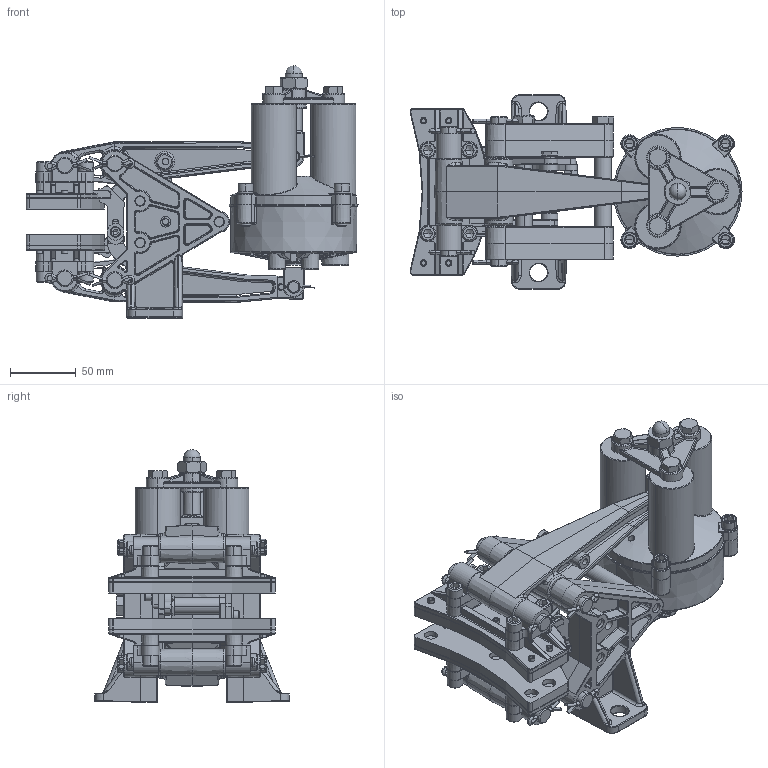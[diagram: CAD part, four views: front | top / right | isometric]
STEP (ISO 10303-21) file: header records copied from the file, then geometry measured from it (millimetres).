
FILE_DESCRIPTION (( 'STEP AP214' ), '1' );
FILE_NAME ('5019-SAW-LH.STEP', '2016-06-02T17:34:08', ( 'User' ), ( 'Microsoft' ), 'SwSTEP 2.0', 'SolidWorks 2015', '' );
FILE_SCHEMA (( 'AUTOMOTIVE_DESIGN' ));
Length unit declared in the file: inch
Products named in the file (1): 5019-SAW-LH
Bounding box: 253.14 x 148.16 x 192.81 mm (x, y, z)
Surface area: 317601.2 mm2 (no closed solid volume)
Topology: 0 solids, 111 shells, 2944 faces, 8541 edges, 5454 vertices
Faces by surface type: cylinder 862, plane 752, bspline 619, cone 373, torus 318, sphere 20
Entity records: 154686 total; most frequent: CARTESIAN_POINT 46465, ORIENTED_EDGE 14494, DIRECTION 13804, EDGE_CURVE 8443, VERTEX_POINT 5454, AXIS2_PLACEMENT_3D 5426, EDGE_LOOP 3206, CIRCLE 3100
